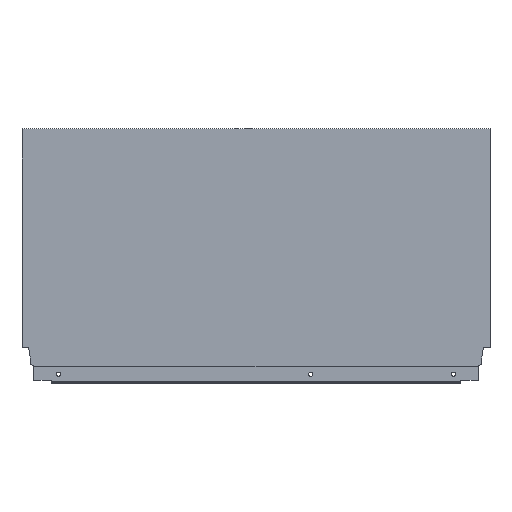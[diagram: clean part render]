
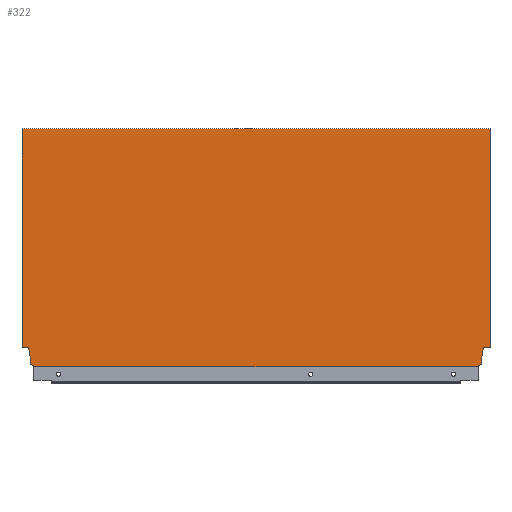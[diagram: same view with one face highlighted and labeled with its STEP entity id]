
A CAD part, top view. The second image highlights one B-rep face of the part: STEP entity #322.
In plain terms, the highlighted planar face has unit normal (0, 0, 1).
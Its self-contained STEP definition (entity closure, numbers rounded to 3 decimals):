
#22 = LINE ( 'NONE', #813, #302 ) ;
#162 = EDGE_CURVE ( 'NONE', #1006, #870, #1325, .T. ) ;
#164 = EDGE_CURVE ( 'NONE', #882, #1011, #1450, .T. ) ;
#165 = EDGE_CURVE ( 'NONE', #909, #1006, #1448, .T. ) ;
#166 = EDGE_CURVE ( 'NONE', #1011, #890, #1452, .T. ) ;
#167 = EDGE_CURVE ( 'NONE', #870, #922, #1456, .T. ) ;
#168 = EDGE_CURVE ( 'NONE', #873, #927, #1454, .T. ) ;
#169 = EDGE_CURVE ( 'NONE', #922, #992, #1458, .T. ) ;
#170 = EDGE_CURVE ( 'NONE', #885, #997, #1462, .T. ) ;
#171 = EDGE_CURVE ( 'NONE', #992, #882, #1460, .T. ) ;
#173 = EDGE_CURVE ( 'NONE', #909, #997, #1292, .T. ) ;
#174 = EDGE_CURVE ( 'NONE', #883, #1016, #1340, .T. ) ;
#175 = EDGE_CURVE ( 'NONE', #1016, #873, #295, .T. ) ;
#177 = EDGE_CURVE ( 'NONE', #927, #885, #1327, .T. ) ;
#179 = EDGE_CURVE ( 'NONE', #883, #890, #22, .T. ) ;
#236 = AXIS2_PLACEMENT_3D ( 'NONE', #692, #688, #687 ) ;
#253 = VECTOR ( 'NONE', #830, 1000. ) ;
#255 = ORIENTED_EDGE ( 'NONE', *, *, #168, .F. ) ;
#256 = ORIENTED_EDGE ( 'NONE', *, *, #177, .F. ) ;
#261 = ORIENTED_EDGE ( 'NONE', *, *, #165, .F. ) ;
#262 = ORIENTED_EDGE ( 'NONE', *, *, #170, .F. ) ;
#263 = ORIENTED_EDGE ( 'NONE', *, *, #173, .T. ) ;
#270 = ORIENTED_EDGE ( 'NONE', *, *, #167, .F. ) ;
#271 = ORIENTED_EDGE ( 'NONE', *, *, #174, .F. ) ;
#278 = ORIENTED_EDGE ( 'NONE', *, *, #166, .F. ) ;
#279 = ORIENTED_EDGE ( 'NONE', *, *, #164, .F. ) ;
#280 = ORIENTED_EDGE ( 'NONE', *, *, #171, .F. ) ;
#281 = ORIENTED_EDGE ( 'NONE', *, *, #175, .F. ) ;
#282 = ORIENTED_EDGE ( 'NONE', *, *, #162, .F. ) ;
#292 = ORIENTED_EDGE ( 'NONE', *, *, #169, .F. ) ;
#294 = ORIENTED_EDGE ( 'NONE', *, *, #179, .T. ) ;
#295 = LINE ( 'NONE', #824, #303 ) ;
#302 = VECTOR ( 'NONE', #811, 1000. ) ;
#303 = VECTOR ( 'NONE', #823, 1000. ) ;
#322 = ADVANCED_FACE ( 'NONE', ( #1221 ), #691, .T. ) ;
#387 = EDGE_LOOP ( 'NONE', ( #263, #262, #256, #255, #281, #271, #294, #278, #279, #280, #292, #270, #282, #261 ) ) ;
#628 = CARTESIAN_POINT ( 'NONE',  ( -499.996, 1.146, 8. ) ) ;
#629 = CARTESIAN_POINT ( 'NONE',  ( -13.004, 1.146, 8. ) ) ;
#630 = CARTESIAN_POINT ( 'NONE',  ( 0., 260.7, 8. ) ) ;
#632 = CARTESIAN_POINT ( 'NONE',  ( -513., 21.2, 8. ) ) ;
#633 = CARTESIAN_POINT ( 'NONE',  ( -8.9, 10.765, 8. ) ) ;
#647 = CARTESIAN_POINT ( 'NONE',  ( -504.1, 10.765, 8. ) ) ;
#648 = CARTESIAN_POINT ( 'NONE',  ( -7.06, 21.2, 8. ) ) ;
#651 = CARTESIAN_POINT ( 'NONE',  ( -513., 260.7, 8. ) ) ;
#654 = CARTESIAN_POINT ( 'NONE',  ( -13.004, 0., 8. ) ) ;
#656 = CARTESIAN_POINT ( 'NONE',  ( -8.9, 2.64, 8. ) ) ;
#657 = CARTESIAN_POINT ( 'NONE',  ( -504.1, 2.64, 8. ) ) ;
#658 = CARTESIAN_POINT ( 'NONE',  ( 0., 21.2, 8. ) ) ;
#662 = CARTESIAN_POINT ( 'NONE',  ( -499.996, 0., 8. ) ) ;
#663 = CARTESIAN_POINT ( 'NONE',  ( -505.94, 21.2, 8. ) ) ;
#687 = DIRECTION ( 'NONE',  ( 1., 0., 0. ) ) ;
#688 = DIRECTION ( 'NONE',  ( 0., 0., 1. ) ) ;
#691 = PLANE ( 'NONE',  #236 ) ;
#692 = CARTESIAN_POINT ( 'NONE',  ( -513., 0., 8. ) ) ;
#811 = DIRECTION ( 'NONE',  ( 1., 0., 0. ) ) ;
#813 = CARTESIAN_POINT ( 'NONE',  ( -513., 0., 8. ) ) ;
#818 = DIRECTION ( 'NONE',  ( -0.174, 0.985, 0. ) ) ;
#819 = CARTESIAN_POINT ( 'NONE',  ( -505.94, 21.2, 8. ) ) ;
#823 = DIRECTION ( 'NONE',  ( -0.94, 0.342, 0. ) ) ;
#824 = CARTESIAN_POINT ( 'NONE',  ( -504.1, 2.64, 8. ) ) ;
#826 = DIRECTION ( 'NONE',  ( 0., 1., 0. ) ) ;
#830 = DIRECTION ( 'NONE',  ( 0., -1., 0. ) ) ;
#832 = CARTESIAN_POINT ( 'NONE',  ( -513., 0., 8. ) ) ;
#838 = DIRECTION ( 'NONE',  ( 0., -1., 0. ) ) ;
#840 = CARTESIAN_POINT ( 'NONE',  ( -8.9, 10.765, 8. ) ) ;
#841 = DIRECTION ( 'NONE',  ( -1., 0., 0. ) ) ;
#843 = CARTESIAN_POINT ( 'NONE',  ( -518., 21.2, 8. ) ) ;
#844 = DIRECTION ( 'NONE',  ( -0.174, -0.985, 0. ) ) ;
#845 = CARTESIAN_POINT ( 'NONE',  ( -7.06, 21.2, 8. ) ) ;
#848 = DIRECTION ( 'NONE',  ( 0., 1., 0. ) ) ;
#849 = CARTESIAN_POINT ( 'NONE',  ( -504.1, 10.765, 8. ) ) ;
#851 = DIRECTION ( 'NONE',  ( -1., 0., 0. ) ) ;
#852 = CARTESIAN_POINT ( 'NONE',  ( 0., 21.2, 8. ) ) ;
#854 = DIRECTION ( 'NONE',  ( 0., -1., 0. ) ) ;
#856 = CARTESIAN_POINT ( 'NONE',  ( -13.004, 1.146, 8. ) ) ;
#857 = DIRECTION ( 'NONE',  ( 1., 0., 0. ) ) ;
#858 = CARTESIAN_POINT ( 'NONE',  ( -513., 260.7, 8. ) ) ;
#860 = DIRECTION ( 'NONE',  ( -0.94, -0.342, 0. ) ) ;
#861 = CARTESIAN_POINT ( 'NONE',  ( -8.9, 2.64, 8. ) ) ;
#865 = DIRECTION ( 'NONE',  ( 0., -1., 0. ) ) ;
#866 = CARTESIAN_POINT ( 'NONE',  ( 0., 0., 8. ) ) ;
#870 = VERTEX_POINT ( 'NONE', #658 ) ;
#871 = CARTESIAN_POINT ( 'NONE',  ( -499.996, 1.146, 8. ) ) ;
#873 = VERTEX_POINT ( 'NONE', #657 ) ;
#882 = VERTEX_POINT ( 'NONE', #656 ) ;
#883 = VERTEX_POINT ( 'NONE', #662 ) ;
#885 = VERTEX_POINT ( 'NONE', #663 ) ;
#890 = VERTEX_POINT ( 'NONE', #654 ) ;
#909 = VERTEX_POINT ( 'NONE', #651 ) ;
#922 = VERTEX_POINT ( 'NONE', #648 ) ;
#927 = VERTEX_POINT ( 'NONE', #647 ) ;
#992 = VERTEX_POINT ( 'NONE', #633 ) ;
#997 = VERTEX_POINT ( 'NONE', #632 ) ;
#1006 = VERTEX_POINT ( 'NONE', #630 ) ;
#1011 = VERTEX_POINT ( 'NONE', #629 ) ;
#1016 = VERTEX_POINT ( 'NONE', #628 ) ;
#1215 = VECTOR ( 'NONE', #826, 1000. ) ;
#1221 = FACE_OUTER_BOUND ( 'NONE', #387, .T. ) ;
#1292 = LINE ( 'NONE', #832, #253 ) ;
#1295 = VECTOR ( 'NONE', #838, 1000. ) ;
#1324 = VECTOR ( 'NONE', #865, 1000. ) ;
#1325 = LINE ( 'NONE', #866, #1324 ) ;
#1327 = LINE ( 'NONE', #819, #1332 ) ;
#1332 = VECTOR ( 'NONE', #818, 1000. ) ;
#1340 = LINE ( 'NONE', #871, #1215 ) ;
#1448 = LINE ( 'NONE', #858, #1453 ) ;
#1449 = VECTOR ( 'NONE', #860, 1000. ) ;
#1450 = LINE ( 'NONE', #861, #1449 ) ;
#1451 = VECTOR ( 'NONE', #854, 1000. ) ;
#1452 = LINE ( 'NONE', #856, #1451 ) ;
#1453 = VECTOR ( 'NONE', #857, 1000. ) ;
#1454 = LINE ( 'NONE', #849, #1459 ) ;
#1455 = VECTOR ( 'NONE', #851, 1000. ) ;
#1456 = LINE ( 'NONE', #852, #1455 ) ;
#1457 = VECTOR ( 'NONE', #844, 1000. ) ;
#1458 = LINE ( 'NONE', #845, #1457 ) ;
#1459 = VECTOR ( 'NONE', #848, 1000. ) ;
#1460 = LINE ( 'NONE', #840, #1295 ) ;
#1461 = VECTOR ( 'NONE', #841, 1000. ) ;
#1462 = LINE ( 'NONE', #843, #1461 ) ;
